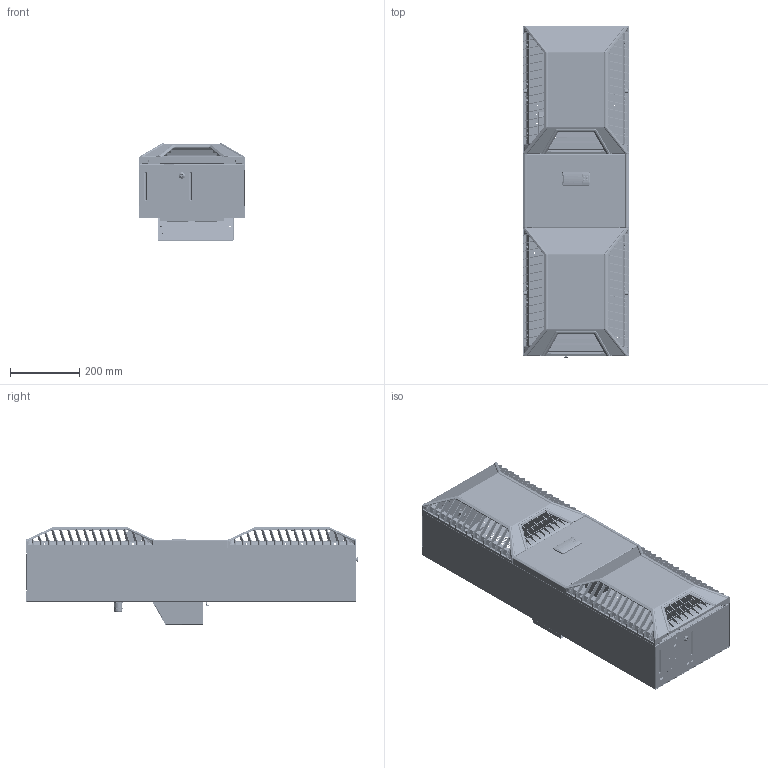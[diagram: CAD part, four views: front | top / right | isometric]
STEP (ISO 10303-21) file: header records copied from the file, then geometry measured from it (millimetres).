
FILE_DESCRIPTION((''),'2;1');
FILE_NAME('KG-8512_COMPLETE_ASM_1_ASM','2025-12-09T16:11:48',('briang'),(''),'CREO PARAMETRIC BY PTC INC, 2023294','CREO PARAMETRIC BY PTC INC, 2023294','');
FILE_SCHEMA(('CONFIG_CONTROL_DESIGN'));
Products named in the file (47): KG-8512_CABINET_1; KG-8512_CABINET-MNF_ASM_1_ASM; KG-8512_BASE_1; BAYONET_DRAINFITTING_BLANK2_1; KG-8512_BASE_ASM_1_ASM; KG-8512_BOTTOM_STRUT_1; KG-8412-8512-INTERNAL-AIR-DUCT_; KG-8412-8512-INTERNAL-DUCT_ASM__ASM; POPNUT_M8_HEX_CLOSED_HEAD1-5_ST; POPNUT_M6_HEX_CL_WITH_LIP_1_5MM; KG8512-MOUNTING-BRACKET_1; KG8512-EXT-MNTG-BKT_1; KG-8512_CABINET_ASM_1_ASM; KG-8512_CONTROLLER_BRKT_1; KG-8512_CONTROLLER_BRKT-MNF_ASM_ASM; D1503-2_ASM_1; CD-1503_ASM_1_ASM; KG-8512_CONTROLLER_ASM_1_ASM; KG-8512_INT_ACCESS_PANEL_1; KG-8512_INT_ACCESS_PANEL-MNF_AS_ASM; KG-8512_INT_ACCESS_PANEL_ASM_1_ASM; NG2-3-GRID-SIDE_1; NG2-3-GRID-SIDE-BOTTOM_1; NG2-3-GRID-SIDE-RIGHT_1; NG2-3-GRID-SIDE-BTM-RIGHT_1; NG2-GRID-ASSEMBLY_ASM_1_ASM; NG2-FRONT-GRID_1; KG-8512_COVER-TOP_1; KG-8512_COVER-TOP_ASM_1_ASM; KG-8512_COVER-BOTTOM_1; KG-8512_COVER-BOTTOM_ASM_1_ASM; KG-8512_MID-COVER_1; NG2_4-SIDE-STRIP_1; KG-8512_MID-COVER_ASM_1_ASM; KG-8512_ELEC_CONN_BRKT_1; KG-8512_ELEC_CONN_BRKT_MNF_ASM__ASM; KG-8512_ELEC_CONN_BRKT_ASM_1_ASM; CON-ML-3P-5_08-SUP-MC_PB-PR_1_ASM; CON-ML-4P-7_62-SUP-MC_PB_1; CON-ML-5P-5_08-SUP-MC_PB_1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
Assembly tree (67 placements, depth 6):
  KG-8512_COMPLETE_ASM_1_ASM
    KG-8512_CABINET_ASM_1_ASM
      KG-8512_CABINET-MNF_ASM_1_ASM
        KG-8512_CABINET_1
      KG-8512_BASE_ASM_1_ASM
        KG-8512_BASE_1
        BAYONET_DRAINFITTING_BLANK2_1
      KG-8512_BOTTOM_STRUT_1
      KG-8412-8512-INTERNAL-DUCT_ASM__ASM
        KG-8412-8512-INTERNAL-AIR-DUCT_
      POPNUT_M8_HEX_CLOSED_HEAD1-5_ST
      POPNUT_M6_HEX_CL_WITH_LIP_1_5MM  x19
      KG8512-MOUNTING-BRACKET_1
      KG8512-EXT-MNTG-BKT_1
    KG-8512_CONTROLLER_ASM_1_ASM
      KG-8512_CONTROLLER_BRKT-MNF_ASM_ASM
        KG-8512_CONTROLLER_BRKT_1
      CD-1503_ASM_1_ASM
        D1503-2_ASM_1
    KG-8512_INT_ACCESS_PANEL_ASM_1_ASM
      KG-8512_INT_ACCESS_PANEL-MNF_AS_ASM
        KG-8512_INT_ACCESS_PANEL_1
    KG-8512_COVER-TOP_ASM_1_ASM
      NG2-GRID-ASSEMBLY_ASM_1_ASM
        NG2-3-GRID-SIDE_1
        NG2-3-GRID-SIDE-BOTTOM_1
        NG2-3-GRID-SIDE-RIGHT_1
        NG2-3-GRID-SIDE-BTM-RIGHT_1
      NG2-FRONT-GRID_1
      KG-8512_COVER-TOP_1
    KG-8512_COVER-BOTTOM_ASM_1_ASM
      NG2-GRID-ASSEMBLY_ASM_1_ASM
        NG2-3-GRID-SIDE_1
        NG2-3-GRID-SIDE-BOTTOM_1
        NG2-3-GRID-SIDE-RIGHT_1
        NG2-3-GRID-SIDE-BTM-RIGHT_1
      NG2-FRONT-GRID_1
      KG-8512_COVER-BOTTOM_1
    KG-8512_MID-COVER_ASM_1_ASM
      KG-8512_MID-COVER_1
      NG2_4-SIDE-STRIP_1  x2
    KG-8512_ELECTRICAL_ASSY_ASM_1_ASM
      KG8512-INT-ELECTRICAL-ASSY_ASM__ASM
        KG-8512_ELEC_CONN_BRKT_ASM_1_ASM
          KG-8512_ELEC_CONN_BRKT_MNF_ASM__ASM
            KG-8512_ELEC_CONN_BRKT_1
        CON-ML-3P-5_08-SUP-MC_PB-PR_1_ASM
        CON-ML-4P-7_62-SUP-MC_PB_1
        CON-ML-5P-5_08-SUP-MC_PB_1
      KG-8512-STRAIN-RELIEF-BRKT-MNF__ASM
        KG-8512-STRAIN-RELEIF-BRKT_1
        CABLE_GLAND_M20_METAL_1
        CABLE_GLAND_M16_1
Bounding box: 305 x 956.1 x 280.25 mm (x, y, z)
Volume: 1773388.6 mm3; surface area: 2908325.7 mm2
Topology: 51 solids, 117 shells, 12956 faces, 36985 edges, 24041 vertices
Faces by surface type: plane 8715, cylinder 3044, cone 492, bspline 320, extrusion 183, torus 101, sphere 101
Entity records: 346692 total; most frequent: CARTESIAN_POINT 99854, ORIENTED_EDGE 53690, DIRECTION 46622, EDGE_CURVE 27091, VECTOR 19430, LINE 19247, VERTEX_POINT 17668, AXIS2_PLACEMENT_3D 13596
